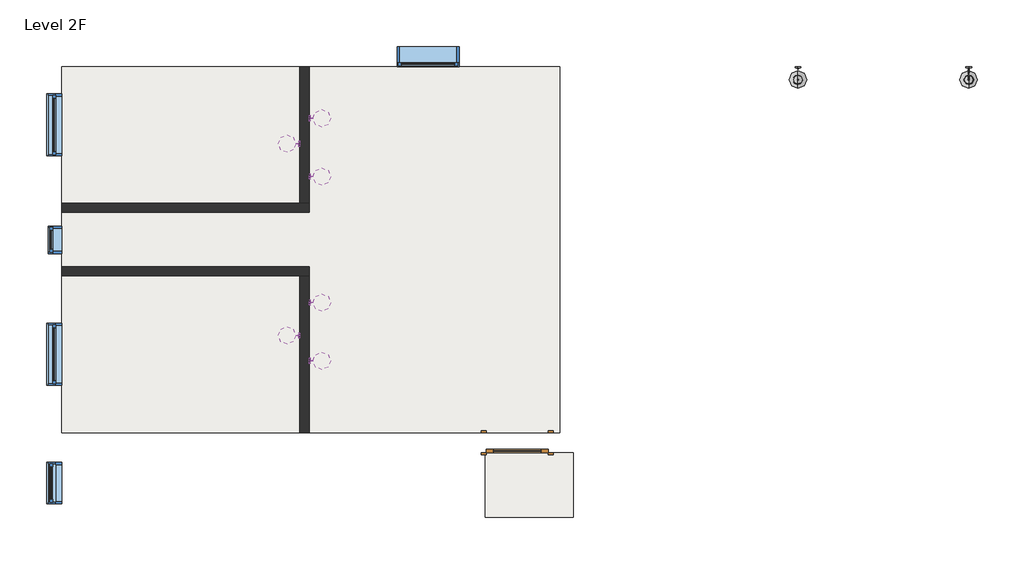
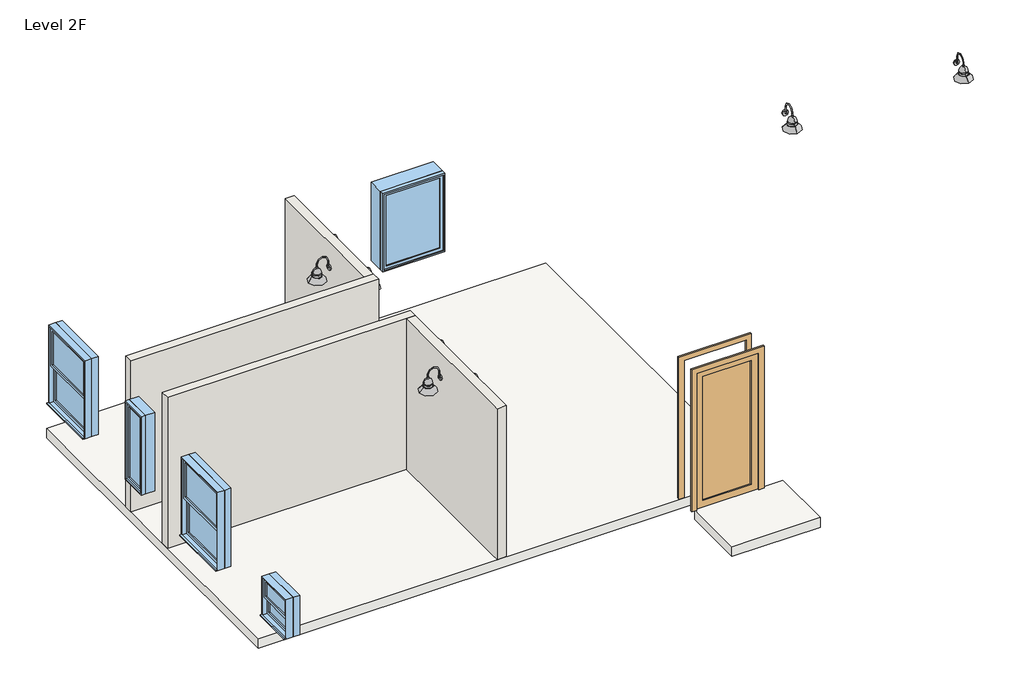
# One storey: 8 light fixtures, 5 windows, 4 walls, 2 slabs, 1 door.
"""IFC4 building model written with IfcOpenShell, lengths in millimetres."""

from ifc_helpers import new_model, si_unit, frame, origin, place, context, project, spatial, polyline, outline, extrude, faceted_brep, transform, mapped, element, save
from components import m_single_glass_1_0915_x_2134mm_64ff6fe7, wall_lamp_bracket_ed0a6397, wall_lamp_bracket_150w_277v_adb7de7a, m_double_hung_0610_x_0610mm_d8fe41b6, m_double_hung_0915_x_1220mm_97183f91, m_fixed_0406_x_1220mm_71a1fb2c, m_fixed_0915_x_1220mm_50dbf9a6

model = new_model("IFC4")

# Units and contexts
model_context = context("Model", 3, world=origin())
ifc_project = project(units=[si_unit("LENGTHUNIT", "METRE", prefix="MILLI")], contexts=[model_context])

# Site, building, storey
site = spatial("IfcSite", under=ifc_project)
building = spatial("IfcBuilding", under=site)
storey = spatial("IfcBuildingStorey", under=building, Name="Level 2F", Elevation=2600.0)

# Door
placement = place(None, origin())
m_single_glass_1_0915_x_2134mm_shape = m_single_glass_1_0915_x_2134mm_64ff6fe7(model_context)
element("IfcDoor", 1, ObjectType="M_Single-Glass 1 : 0915 x 2134mm", at=placement, inside=storey, context=model_context, shape_type="MappedRepresentation", body=[
    mapped(m_single_glass_1_0915_x_2134mm_shape, transform((-748.7239276, -12846.8966791, 2600.0), x_axis=(-1.0, 0.0, 0.0), y_axis=(0.0, -1.0, 0.0), z_axis=(0.0, 0.0, 1.0))),
])

# Light fixtures
wall_lamp_bracket_shape = wall_lamp_bracket_ed0a6397(model_context)
element("IfcLightFixture", 2, ObjectType="Wall Lamp - Bracket : super bright by TN", at=placement, inside=storey, context=model_context, shape_type="MappedRepresentation", body=[
    mapped(wall_lamp_bracket_shape, transform((-3891.4739276, -8394.8660164, 2266.4), x_axis=(0.0, 1.0, 0.0), y_axis=(-1.0, 0.0, 0.0), z_axis=(0.0, 0.0, 1.0))),
])
element("IfcLightFixture", 3, ObjectType="Wall Lamp - Bracket : super bright by TN", at=placement, inside=storey, context=model_context, shape_type="MappedRepresentation", body=[
    mapped(wall_lamp_bracket_shape, transform((-3891.4739276, -11226.2160164, 2266.4), x_axis=(0.0, 1.0, 0.0), y_axis=(-1.0, 0.0, 0.0), z_axis=(0.0, 0.0, 1.0))),
])
element("IfcLightFixture", 4, ObjectType="Wall Lamp - Bracket : super bright by TN", at=placement, inside=storey, context=model_context, shape_type="MappedRepresentation", body=[
    mapped(wall_lamp_bracket_shape, transform((-3891.4739276, -8953.0773417, 2266.4), x_axis=(0.0, -1.0, 0.0), y_axis=(1.0, 0.0, 0.0), z_axis=(0.0, 0.0, 1.0))),
])
element("IfcLightFixture", 5, ObjectType="Wall Lamp - Bracket : super bright by TN", at=placement, inside=storey, context=model_context, shape_type="MappedRepresentation", body=[
    mapped(wall_lamp_bracket_shape, transform((-3891.4739276, -10813.4273417, 2266.4), x_axis=(0.0, -1.0, 0.0), y_axis=(1.0, 0.0, 0.0), z_axis=(0.0, 0.0, 1.0))),
])
element("IfcLightFixture", 6, ObjectType="Wall Lamp - Bracket : super bright by TN", at=placement, inside=storey, context=model_context, shape_type="MappedRepresentation", body=[
    mapped(wall_lamp_bracket_shape, transform((-3891.4739276, -11673.7773417, 2266.4), x_axis=(0.0, -1.0, 0.0), y_axis=(1.0, 0.0, 0.0), z_axis=(0.0, 0.0, 1.0))),
])
element("IfcLightFixture", 7, ObjectType="Wall Lamp - Bracket : super bright by TN", at=placement, inside=storey, context=model_context, shape_type="MappedRepresentation", body=[
    mapped(wall_lamp_bracket_shape, transform((-3891.4739276, -8092.7273417, 2266.4), x_axis=(0.0, -1.0, 0.0), y_axis=(1.0, 0.0, 0.0), z_axis=(0.0, 0.0, 1.0))),
])
wall_lamp_bracket_150w_277v_shape = wall_lamp_bracket_150w_277v_adb7de7a(model_context)
element("IfcLightFixture", 8, ObjectType="Wall Lamp - Bracket : 150W - 277V", at=placement, inside=storey, context=model_context, shape_type="MappedRepresentation", body=[
    mapped(wall_lamp_bracket_150w_277v_shape, transform((5879.7454097, -7146.8966791, 1312.2989464), x_axis=(-1.0, 0.0, 0.0), y_axis=(0.0, -1.0, 0.0), z_axis=(0.0, 0.0, 1.0))),
])
element("IfcLightFixture", 9, ObjectType="Wall Lamp - Bracket : 150W - 277V", at=placement, inside=storey, context=model_context, shape_type="MappedRepresentation", body=[
    mapped(wall_lamp_bracket_150w_277v_shape, transform((3359.7454097, -7146.8966791, 1412.4840692), x_axis=(-1.0, 0.0, 0.0), y_axis=(0.0, -1.0, 0.0), z_axis=(0.0, 0.0, 1.0))),
])

# Slabs
element("IfcSlab", 10, ObjectType="Generic 150mm", at=placement, inside=storey, context=model_context, shape_type="Brep", body=[
    faceted_brep([(-123.7239276, -7296.8966791, 2450.0), (-123.7239276, -12696.8966791, 2450.0), (-7473.7239276, -12696.8966791, 2450.0), (-7473.7239276, -7296.8966791, 2450.0), (-123.7239276, -7296.8966791, 2600.0), (-7473.7239276, -7296.8966791, 2600.0), (-7473.7239276, -12696.8966791, 2600.0), (-1206.2239276, -12696.8966791, 2600.0), (-291.2239276, -12696.8966791, 2600.0), (-123.7239276, -12696.8966791, 2600.0)], [[[0, 1, 2, 3]], [[4, 5, 6, 7, 8, 9]], [[1, 0, 4, 9]], [[2, 1, 9, 8, 7, 6]], [[3, 2, 6, 5]], [[0, 3, 5, 4]]]),
])
element("IfcSlab", 11, ObjectType="Generic 150mm", at=placement, inside=storey, context=model_context, shape_type="SweptSolid", body=[
    extrude(outline(polyline([(-1223.7239276, -13946.8966791), (-1223.7239276, -12996.8966791), (76.2760724, -12996.8966791), (76.2760724, -13946.8966791), (-1223.7239276, -13946.8966791)])), frame((0.0, 0.0, 2450.0), z_axis=(0.0, 0.0, 1.0), x_axis=(1.0, 0.0, 0.0)), (0.0, 0.0, 1.0), 150.0),
])

# Walls
element("IfcWall", 12, ObjectType="Interior - 135mm Partition (2-hr)", at=placement, inside=storey, context=model_context, shape_type="Brep", body=[
    faceted_brep([(-7473.7239276, -10382.3966791, 2600.0), (-3959.2239276, -10382.3966791, 2600.0), (-3823.7239276, -10382.3966791, 2600.0), (-3823.7239276, -10382.3966791, 4950.0), (-3959.2239276, -10382.3966791, 4950.0), (-7473.7239276, -10382.3966791, 4950.0), (-7473.7239276, -10246.8966791, 2600.0), (-7473.7239276, -10246.8966791, 4950.0), (-3823.7239276, -10246.8966791, 4950.0), (-3823.7239276, -10246.8966791, 2600.0)], [[[0, 1, 2, 3, 4, 5]], [[6, 7, 8, 9]], [[2, 1, 0, 6, 9]], [[0, 5, 7, 6]], [[3, 2, 9, 8]], [[5, 4, 3, 8, 7]]]),
])
element("IfcWall", 13, ObjectType="Interior - 135mm Partition (2-hr)", at=placement, inside=storey, context=model_context, shape_type="SweptSolid", body=[
    extrude(outline(polyline([(-3959.2239276, -12696.8966791), (-3959.2239276, -10382.3966791), (-3823.7239276, -10382.3966791), (-3823.7239276, -12696.8966791), (-3959.2239276, -12696.8966791)])), frame((0.0, 0.0, 2600.0), z_axis=(0.0, 0.0, 1.0), x_axis=(1.0, 0.0, 0.0)), (0.0, 0.0, 1.0), 2350.0),
])
element("IfcWall", 14, ObjectType="Interior - 135mm Partition (2-hr)", at=placement, inside=storey, context=model_context, shape_type="Brep", body=[
    faceted_brep([(-7473.7239276, -9446.8966791, 2600.0), (-3823.7239276, -9446.8966791, 2600.0), (-3823.7239276, -9446.8966791, 4950.0), (-7473.7239276, -9446.8966791, 4950.0), (-7473.7239276, -9311.3966791, 2600.0), (-7473.7239276, -9311.3966791, 4950.0), (-3959.2239276, -9311.3966791, 4950.0), (-3823.7239276, -9311.3966791, 4950.0), (-3823.7239276, -9311.3966791, 2600.0), (-3959.2239276, -9311.3966791, 2600.0)], [[[0, 1, 2, 3]], [[4, 5, 6, 7, 8, 9]], [[1, 0, 4, 9, 8]], [[0, 3, 5, 4]], [[2, 1, 8, 7]], [[3, 2, 7, 6, 5]]]),
])
element("IfcWall", 15, ObjectType="Interior - 135mm Partition (2-hr)", at=placement, inside=storey, context=model_context, shape_type="SweptSolid", body=[
    extrude(outline(polyline([(-3823.7239276, -7296.8966791), (-3823.7239276, -9311.3966791), (-3959.2239276, -9311.3966791), (-3959.2239276, -7296.8966791), (-3823.7239276, -7296.8966791)])), frame((0.0, 0.0, 2600.0), z_axis=(0.0, 0.0, 1.0), x_axis=(1.0, 0.0, 0.0)), (0.0, 0.0, 1.0), 2350.0),
])

# Windows
m_double_hung_0610_x_0610mm_shape = m_double_hung_0610_x_0610mm_d8fe41b6(model_context)
element("IfcWindow", 16, ObjectType="M_Double Hung : 0610 x 0610mm", at=placement, inside=storey, context=model_context, shape_type="MappedRepresentation", body=[
    mapped(m_double_hung_0610_x_0610mm_shape, transform((-7573.7239276, -13441.8966791, 2385.0), x_axis=(0.0, 1.0, 0.0), y_axis=(-1.0, 0.0, 0.0), z_axis=(0.0, 0.0, 1.0))),
])
m_double_hung_0915_x_1220mm_shape = m_double_hung_0915_x_1220mm_97183f91(model_context)
element("IfcWindow", 17, ObjectType="M_Double Hung : 0915 x 1220mm", at=placement, inside=storey, context=model_context, shape_type="MappedRepresentation", body=[
    mapped(m_double_hung_0915_x_1220mm_shape, transform((-7573.7239276, -8153.8966791, 2385.0), x_axis=(0.0, 1.0, 0.0), y_axis=(-1.0, 0.0, 0.0), z_axis=(0.0, 0.0, 1.0))),
])
element("IfcWindow", 18, ObjectType="M_Double Hung : 0915 x 1220mm", at=placement, inside=storey, context=model_context, shape_type="MappedRepresentation", body=[
    mapped(m_double_hung_0915_x_1220mm_shape, transform((-7573.7239276, -11539.8966791, 2385.0), x_axis=(0.0, 1.0, 0.0), y_axis=(-1.0, 0.0, 0.0), z_axis=(0.0, 0.0, 1.0))),
])
m_fixed_0406_x_1220mm_shape = m_fixed_0406_x_1220mm_71a1fb2c(model_context)
element("IfcWindow", 19, ObjectType="M_Fixed : 0406 x 1220mm", at=placement, inside=storey, context=model_context, shape_type="MappedRepresentation", body=[
    mapped(m_fixed_0406_x_1220mm_shape, transform((-7560.7239276, -9849.8966791, 2385.0), x_axis=(0.0, 1.0, 0.0), y_axis=(-1.0, 0.0, 0.0), z_axis=(0.0, 0.0, 1.0))),
])
m_fixed_0915_x_1220mm_shape = m_fixed_0915_x_1220mm_50dbf9a6(model_context)
element("IfcWindow", 20, ObjectType="M_Fixed : 0915 x 1220mm", at=placement, inside=storey, context=model_context, shape_type="MappedRepresentation", body=[
    mapped(m_fixed_0915_x_1220mm_shape, transform((-2066.2239276, -7133.8966791, 2385.0), x_axis=(-1.0, 0.0, 0.0), y_axis=(0.0, -1.0, 0.0), z_axis=(0.0, 0.0, 1.0))),
])

save(model, "model.ifc")
